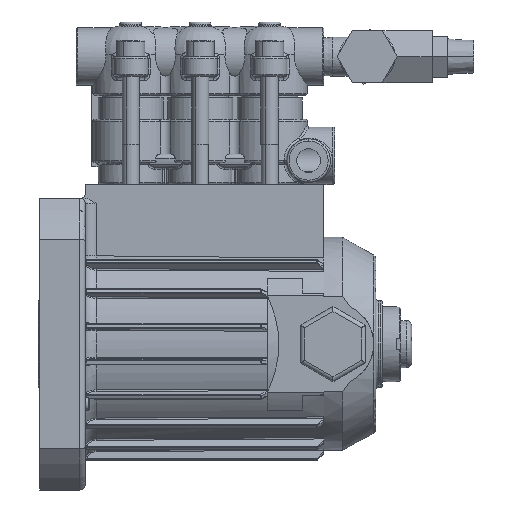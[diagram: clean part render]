
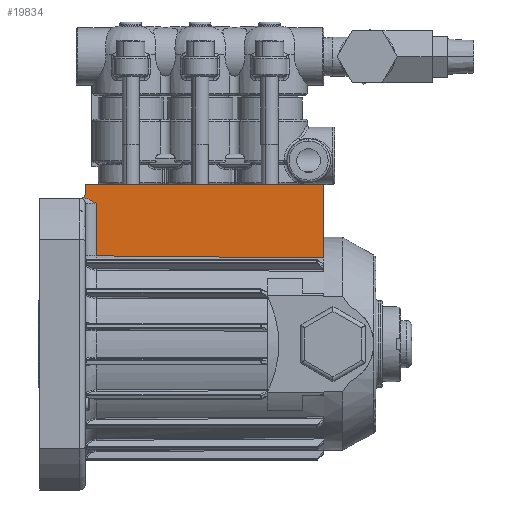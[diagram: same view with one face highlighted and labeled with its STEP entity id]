
A CAD part, front view. The second image highlights one B-rep face of the part: STEP entity #19834.
In plain terms, the highlighted planar face has unit normal (0, -1, 0).
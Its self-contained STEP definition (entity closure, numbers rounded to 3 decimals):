
#5934 = CARTESIAN_POINT ( 'NONE',  ( 57., -32., -56.8 ) ) ;
#5967 = CARTESIAN_POINT ( 'NONE',  ( -53., -32., -56.8 ) ) ;
#9598 = LINE ( 'NONE', #9599, #12007 ) ;
#9599 = CARTESIAN_POINT ( 'NONE',  ( -53., -32., -56.8 ) ) ;
#9600 = DIRECTION ( 'NONE',  ( -1., 0., 0. ) ) ;
#12007 = VECTOR ( 'NONE', #9600, 1000. ) ;
#12163 = ORIENTED_EDGE ( 'NONE', *, *, #50046, .T. ) ;
#12166 = ORIENTED_EDGE ( 'NONE', *, *, #50012, .F. ) ;
#12168 = ORIENTED_EDGE ( 'NONE', *, *, #50043, .T. ) ;
#12172 = ORIENTED_EDGE ( 'NONE', *, *, #50048, .T. ) ;
#12173 = ORIENTED_EDGE ( 'NONE', *, *, #50051, .T. ) ;
#12177 = ORIENTED_EDGE ( 'NONE', *, *, #50050, .T. ) ;
#12179 = ORIENTED_EDGE ( 'NONE', *, *, #50034, .F. ) ;
#12184 = ORIENTED_EDGE ( 'NONE', *, *, #47416, .T. ) ;
#19834 = ADVANCED_FACE ( 'NONE', ( #100281 ), #108591, .T. ) ;
#31272 = VECTOR ( 'NONE', #42979, 1000. ) ;
#31278 = AXIS2_PLACEMENT_3D ( 'NONE', #45900, #45901, #45902 ) ;
#31285 = VECTOR ( 'NONE', #45880, 1000. ) ;
#31287 = VECTOR ( 'NONE', #45906, 1000. ) ;
#31289 = VECTOR ( 'NONE', #45921, 1000. ) ;
#39576 = VERTEX_POINT ( 'NONE', #5934 ) ;
#39609 = VERTEX_POINT ( 'NONE', #5967 ) ;
#42977 = LINE ( 'NONE', #42978, #31272 ) ;
#42978 = CARTESIAN_POINT ( 'NONE',  ( -74., -32., -63.21 ) ) ;
#42979 = DIRECTION ( 'NONE',  ( -1., 0., 0. ) ) ;
#45878 = LINE ( 'NONE', #45879, #31285 ) ;
#45879 = CARTESIAN_POINT ( 'NONE',  ( 57., -32., -56.8 ) ) ;
#45880 = DIRECTION ( 'NONE',  ( 0., 0., -1. ) ) ;
#45900 = CARTESIAN_POINT ( 'NONE',  ( -55., -32., -61.21 ) ) ;
#45901 = DIRECTION ( 'NONE',  ( 0., 1., 0. ) ) ;
#45902 = DIRECTION ( 'NONE',  ( 0., 0., -1. ) ) ;
#45903 = CARTESIAN_POINT ( 'NONE',  ( -53.6, -32., -63.21 ) ) ;
#45904 = LINE ( 'NONE', #45905, #31287 ) ;
#45905 = CARTESIAN_POINT ( 'NONE',  ( -53., -32., -56.8 ) ) ;
#45906 = DIRECTION ( 'NONE',  ( 0., 0., -1. ) ) ;
#45907 = CARTESIAN_POINT ( 'NONE',  ( -53.336, -32., -63.21 ) ) ;
#45908 = CARTESIAN_POINT ( 'NONE',  ( -53.068, -32., -63.233 ) ) ;
#45909 = CARTESIAN_POINT ( 'NONE',  ( -52.546, -32., -63.317 ) ) ;
#45910 = CARTESIAN_POINT ( 'NONE',  ( -52.29, -32., -63.377 ) ) ;
#45911 = CARTESIAN_POINT ( 'NONE',  ( -51.535, -32., -63.6 ) ) ;
#45912 = CARTESIAN_POINT ( 'NONE',  ( -51.046, -32., -63.809 ) ) ;
#45913 = CARTESIAN_POINT ( 'NONE',  ( -50.108, -32., -64.291 ) ) ;
#45914 = CARTESIAN_POINT ( 'NONE',  ( -49.659, -32., -64.565 ) ) ;
#45915 = CARTESIAN_POINT ( 'NONE',  ( -48.78, -32., -65.142 ) ) ;
#45916 = CARTESIAN_POINT ( 'NONE',  ( -48.349, -32., -65.447 ) ) ;
#45917 = CARTESIAN_POINT ( 'NONE',  ( -47.92, -32., -65.75 ) ) ;
#45918 = CARTESIAN_POINT ( 'NONE',  ( -47.92, -32., -89.778 ) ) ;
#45919 = LINE ( 'NONE', #45920, #31289 ) ;
#45920 = CARTESIAN_POINT ( 'NONE',  ( -47.92, -32., -56.8 ) ) ;
#45921 = DIRECTION ( 'NONE',  ( 0., 0., -1. ) ) ;
#45922 = CARTESIAN_POINT ( 'NONE',  ( -12.947, -32., -90.109 ) ) ;
#45923 = CARTESIAN_POINT ( 'NONE',  ( 22.027, -32., -90.441 ) ) ;
#45924 = CARTESIAN_POINT ( 'NONE',  ( 57., -32., -90.775 ) ) ;
#47416 = EDGE_CURVE ( 'NONE', #39576, #39609, #9598, .T. ) ;
#50012 = EDGE_CURVE ( 'NONE', #59848, #59844, #42977, .T. ) ;
#50034 = EDGE_CURVE ( 'NONE', #39576, #59854, #45878, .T. ) ;
#50043 = EDGE_CURVE ( 'NONE', #59856, #59844, #97943, .T. ) ;
#50046 = EDGE_CURVE ( 'NONE', #39609, #59856, #45904, .T. ) ;
#50048 = EDGE_CURVE ( 'NONE', #59848, #59857, #123199, .T. ) ;
#50050 = EDGE_CURVE ( 'NONE', #59857, #59858, #45919, .T. ) ;
#50051 = EDGE_CURVE ( 'NONE', #59858, #59854, #123196, .T. ) ;
#55975 = CARTESIAN_POINT ( 'NONE',  ( -55., -32., -63.21 ) ) ;
#55982 = CARTESIAN_POINT ( 'NONE',  ( -53.6, -32., -63.21 ) ) ;
#55993 = CARTESIAN_POINT ( 'NONE',  ( 57., -32., -90.775 ) ) ;
#55996 = CARTESIAN_POINT ( 'NONE',  ( -53., -32., -61.21 ) ) ;
#55998 = CARTESIAN_POINT ( 'NONE',  ( -47.92, -32., -65.75 ) ) ;
#56000 = CARTESIAN_POINT ( 'NONE',  ( -47.92, -32., -89.778 ) ) ;
#59844 = VERTEX_POINT ( 'NONE', #55975 ) ;
#59848 = VERTEX_POINT ( 'NONE', #55982 ) ;
#59854 = VERTEX_POINT ( 'NONE', #55993 ) ;
#59856 = VERTEX_POINT ( 'NONE', #55996 ) ;
#59857 = VERTEX_POINT ( 'NONE', #55998 ) ;
#59858 = VERTEX_POINT ( 'NONE', #56000 ) ;
#97943 = CIRCLE ( 'NONE', #31278, 2. ) ;
#100281 = FACE_OUTER_BOUND ( 'NONE', #111528, .T. ) ;
#100294 = AXIS2_PLACEMENT_3D ( 'NONE', #108593, #108595, #108597 ) ;
#108591 = PLANE ( 'NONE',  #100294 ) ;
#108593 = CARTESIAN_POINT ( 'NONE',  ( -53., -32., -56.8 ) ) ;
#108595 = DIRECTION ( 'NONE',  ( 0., -1., 0. ) ) ;
#108597 = DIRECTION ( 'NONE',  ( 0., 0., -1. ) ) ;
#111528 = EDGE_LOOP ( 'NONE', ( #12163, #12168, #12166, #12172, #12177, #12173, #12179, #12184 ) ) ;
#123196 = B_SPLINE_CURVE_WITH_KNOTS ( 'NONE', 3,
 ( #45918, #45922, #45923, #45924 ),
 .UNSPECIFIED., .F., .F.,
 ( 4, 4 ),
 ( 0., 0.105 ),
 .UNSPECIFIED. ) ;
#123199 = B_SPLINE_CURVE_WITH_KNOTS ( 'NONE', 3,
 ( #45903, #45907, #45908, #45909, #45910, #45911, #45912, #45913, #45914, #45915, #45916, #45917 ),
 .UNSPECIFIED., .F., .F.,
 ( 4, 2, 2, 2, 2, 4 ),
 ( -0.001, 0., 0.001, 0.003, 0.004, 0.006 ),
 .UNSPECIFIED. ) ;
